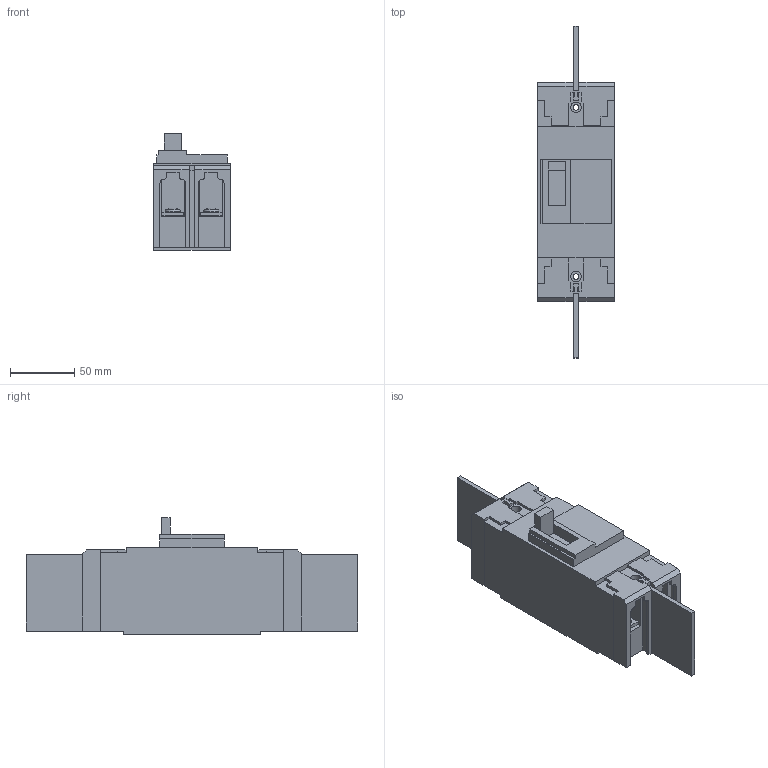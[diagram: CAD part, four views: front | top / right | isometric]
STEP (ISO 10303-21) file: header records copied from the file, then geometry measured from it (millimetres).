
FILE_DESCRIPTION( ( '' ), '1' );
FILE_NAME( 'E:/D&C電子外形図_3D/step/BW125JAGU-2P.stp', '2012-10-19T05:28:45', ( '' ), ( '' ), ' ', ' ', ' ' );
FILE_SCHEMA( ( 'automotive_design' ) );
Length unit declared in the file: millimetre
Products named in the file (10): 1; 2; 3; 4; 5; 6; 7; 8; 9; 10
Bounding box: 60 x 259 x 91 mm (x, y, z)
Volume: 619503.1 mm3; surface area: 104465.1 mm2
Topology: 10 solids, 10 shells, 290 faces, 754 edges, 500 vertices
Faces by surface type: plane 226, cylinder 48, sphere 8, torus 8
Entity records: 17631 total; most frequent: STYLED_ITEM 1554, PRESENTATION_STYLE_ASSIGNMENT 1554, CARTESIAN_POINT 1554, COLOUR_RGB 1554, ORIENTED_EDGE 1508, DIRECTION 1482, EDGE_CURVE 754, CURVE_STYLE 754
